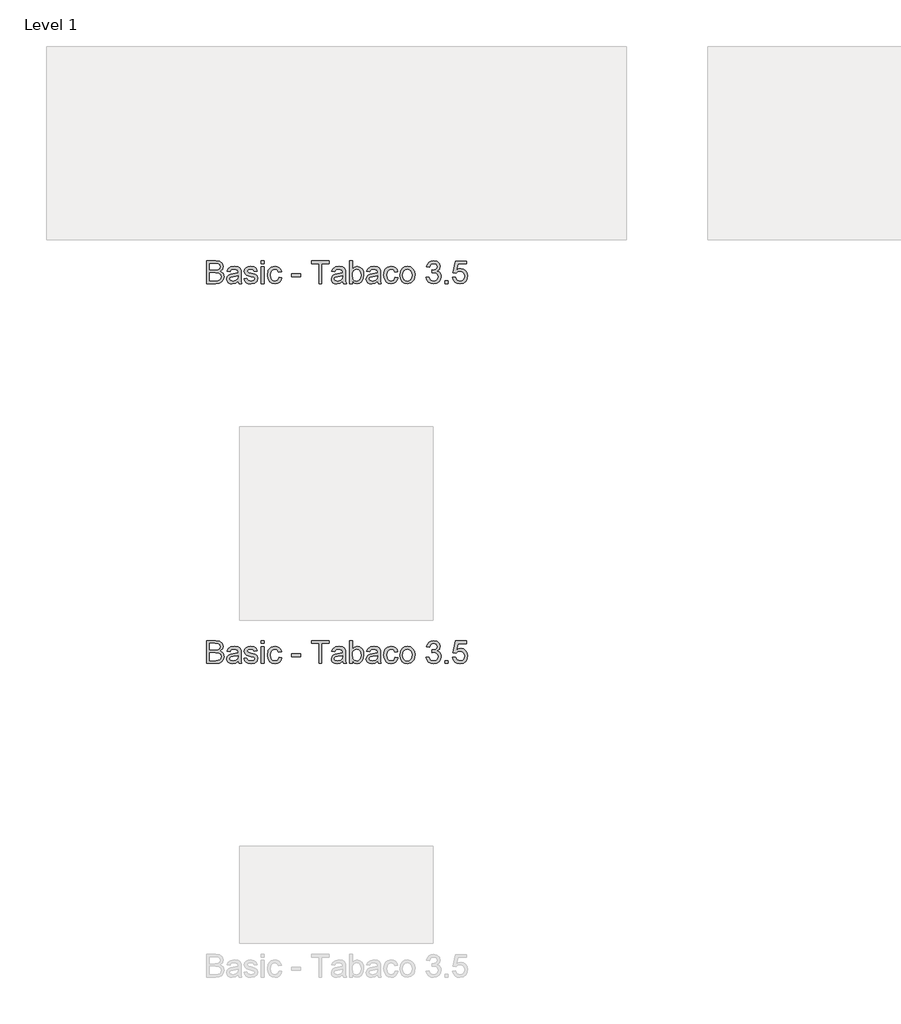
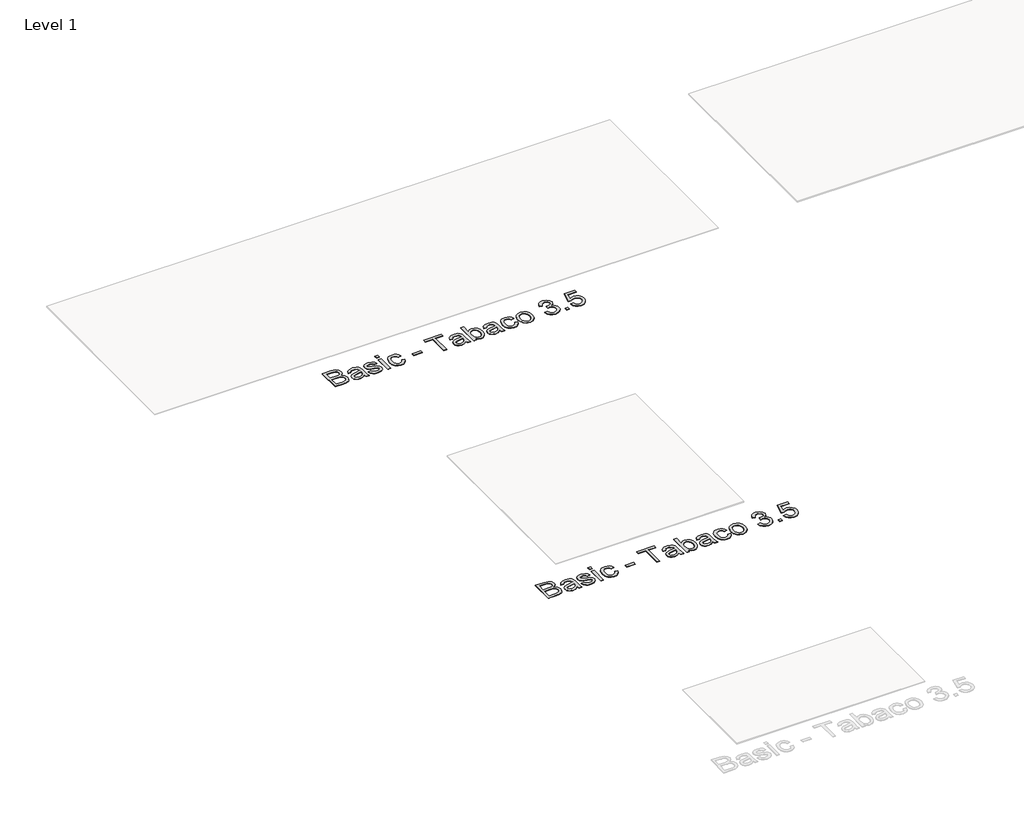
# One storey, part 61 of 80: 2 proxies.
"""IFC4 building model written with IfcOpenShell, lengths in millimetres."""

from ifc_helpers import new_model, si_unit, origin, origin_with_axes, place, context, project, spatial, polyline, outline, extrude, element, save

model = new_model("IFC4")

# Units and contexts
model_context = context("Model", 3, world=origin())
ifc_project = project(units=[si_unit("LENGTHUNIT", "METRE", prefix="MILLI")], contexts=[model_context])

# Site, building, storey
site = spatial("IfcSite", under=ifc_project)
building = spatial("IfcBuilding", under=site)
storey = spatial("IfcBuildingStorey", under=building, Name="Level 1", Elevation=0.0)

# Proxies
placement = place(None, origin())
element("IfcBuildingElementProxy", 1, Name="24\" Arial", ObjectType="24\" Arial", at=placement, inside=storey, context=model_context, shape_type="SweptSolid", body=[
    extrude(outline(polyline([(-3256.6145694, 19224.0250725), (-3256.6145694, 19342.1789187), (-3211.528031, 19342.1789187), (-3189.4463002, 19338.7029571), (-3176.4078387, 19328.0154571), (-3171.6914925, 19312.9000725), (-3175.6578387, 19299.0971879), (-3187.6434156, 19288.6404571), (-3173.090531, 19277.6212264), (-3167.9991848, 19259.2462264), (-3171.4751464, 19243.3664187), (-3180.0857233, 19232.0587264), (-3192.9366848, 19226.0587264), (-3211.8741848, 19224.0250725), (-3256.6145694, 19224.0250725)]), holes=[polyline([(-3241.8453387, 19238.7943033), (-3211.5568771, 19238.7943033), (-3200.5953387, 19239.3712264), (-3191.3213002, 19242.5875725), (-3185.1770694, 19249.1500725), (-3182.7684156, 19259.1019956), (-3185.5953387, 19270.5827648), (-3194.7539925, 19277.4337264), (-3212.9991848, 19279.4096879), (-3241.8453387, 19279.4096879), (-3241.8453387, 19238.7943033)]), polyline([(-3241.8453387, 19294.1789187), (-3214.8741848, 19294.1789187), (-3199.1241848, 19295.4481494), (-3189.6482233, 19300.9144956), (-3186.4607233, 19310.5346879), (-3189.4318771, 19320.1693033), (-3197.9414925, 19325.8664187), (-3216.9222617, 19327.4096879), (-3241.8453387, 19327.4096879), (-3241.8453387, 19294.1789187)])]), origin_with_axes(), (0.0, 0.0, 1.0), 2.0),
    extrude(outline(polyline([(-3094.153031, 19235.1019956), (-3108.4751464, 19225.0923802), (-3124.2972617, 19222.1789187), (-3136.6398098, 19223.9313225), (-3145.7443771, 19229.188534), (-3151.3585598, 19237.1717071), (-3153.2299541, 19247.1019956), (-3150.403031, 19258.7846879), (-3142.9751464, 19267.2654571), (-3132.6338002, 19272.111611), (-3119.8549541, 19274.3327648), (-3094.2395694, 19279.4096879), (-3094.153031, 19282.6981494), (-3098.2203387, 19293.6019956), (-3114.5472617, 19297.8712264), (-3129.4895694, 19295.0298802), (-3136.6145694, 19284.9481494), (-3151.3838002, 19286.7943033), (-3144.9943771, 19301.2173802), (-3132.1289925, 19309.6693033), (-3112.6434156, 19312.6404571), (-3094.7443771, 19310.0154571), (-3084.6338002, 19303.424111), (-3080.1049541, 19293.4000725), (-3079.3838002, 19280.4769956), (-3079.3838002, 19262.1019956), (-3078.6338002, 19236.4433417), (-3075.6914925, 19224.0250725), (-3090.4607233, 19224.0250725), (-3094.153031, 19235.1019956)]), holes=[polyline([(-3094.153031, 19264.6404571), (-3117.9799541, 19260.111611), (-3130.6866848, 19257.7173802), (-3136.4414925, 19253.8231494), (-3138.4607233, 19248.1404571), (-3134.0616848, 19240.1500725), (-3121.153031, 19236.9481494), (-3106.2107233, 19240.4818033), (-3096.5761079, 19249.0346879), (-3094.2395694, 19260.4577648), (-3094.153031, 19264.6404571)])]), origin_with_axes(), (0.0, 0.0, 1.0), 2.0),
    extrude(outline(polyline([(-3064.6145694, 19249.8712264), (-3049.8453387, 19251.7173802), (-3043.0088002, 19240.7558417), (-3027.3453387, 19236.9481494), (-3012.2876464, 19240.438534), (-3007.3838002, 19248.6308417), (-3012.3164925, 19255.2654571), (-3027.5184156, 19259.4769956), (-3049.7588002, 19266.7029571), (-3059.465531, 19275.1404571), (-3062.7684156, 19287.0539187), (-3060.1145694, 19298.0587264), (-3052.8741848, 19306.4673802), (-3043.4847617, 19310.8375725), (-3030.778031, 19312.6404571), (-3012.8068771, 19309.7414187), (-3001.3838002, 19301.8952648), (-2996.3068771, 19288.6404571), (-3011.0761079, 19286.7943033), (-3016.6289925, 19294.9433417), (-3029.6241848, 19297.8712264), (-3043.7588002, 19295.0731494), (-3047.9991848, 19288.5539187), (-3046.2395694, 19284.2558417), (-3040.7299541, 19280.9962264), (-3028.0088002, 19277.8519956), (-3006.3309156, 19270.9000725), (-2996.2636079, 19263.0250725), (-2992.6145694, 19250.188534), (-2996.8982233, 19236.0539187), (-3009.2588002, 19225.799111), (-3027.5472617, 19222.1789187), (-3042.4390887, 19223.924111), (-3053.3068771, 19229.1596879), (-3060.5616848, 19237.8279571), (-3064.6145694, 19249.8712264)])), origin_with_axes(), (0.0, 0.0, 1.0), 2.0),
    extrude(outline(polyline([(-2975.9991848, 19224.0250725), (-2975.9991848, 19310.7943033), (-2961.2299541, 19310.7943033), (-2961.2299541, 19224.0250725), (-2975.9991848, 19224.0250725)])), origin_with_axes(), (0.0, 0.0, 1.0), 2.0),
    extrude(outline(polyline([(-2975.9991848, 19327.4096879), (-2975.9991848, 19342.1789187), (-2961.2299541, 19342.1789187), (-2961.2299541, 19327.4096879), (-2975.9991848, 19327.4096879)])), origin_with_axes(), (0.0, 0.0, 1.0), 2.0),
    extrude(outline(polyline([(-2883.6914925, 19255.4096879), (-2868.9222617, 19253.563534), (-2873.0400502, 19240.4277167), (-2880.778031, 19230.501034), (-2891.4078387, 19224.2594475), (-2904.2011079, 19222.1789187), (-2919.9114444, 19225.0815629), (-2932.1963002, 19233.7894956), (-2940.1253867, 19247.9205052), (-2942.7684156, 19267.0923802), (-2938.2539925, 19291.626034), (-2932.5568771, 19300.8243514), (-2924.4943771, 19307.3904571), (-2904.403031, 19312.6404571), (-2891.9234637, 19310.8375725), (-2881.9463002, 19305.4289187), (-2874.7888483, 19296.7029571), (-2870.7684156, 19284.9481494), (-2885.5376464, 19283.1019956), (-2892.3886079, 19294.1644956), (-2904.2876464, 19297.8712264), (-2913.8321175, 19296.0467071), (-2921.4078387, 19290.5731494), (-2926.3513483, 19281.1548802), (-2927.9991848, 19267.4962264), (-2926.387406, 19253.6536783), (-2921.5520694, 19244.2029571), (-2914.1133675, 19238.7618514), (-2904.6914925, 19236.9481494), (-2890.7732233, 19241.4769956), (-2883.6914925, 19255.4096879)])), origin_with_axes(), (0.0, 0.0, 1.0), 2.0),
    extrude(outline(polyline([(-2817.2299541, 19259.1019956), (-2817.2299541, 19273.8712264), (-2771.0761079, 19273.8712264), (-2771.0761079, 19259.1019956), (-2817.2299541, 19259.1019956)])), origin_with_axes(), (0.0, 0.0, 1.0), 2.0),
    extrude(outline(polyline([(-2676.9222617, 19224.0250725), (-2676.9222617, 19327.4096879), (-2715.6914925, 19327.4096879), (-2715.6914925, 19342.1789187), (-2623.3838002, 19342.1789187), (-2623.3838002, 19327.4096879), (-2662.153031, 19327.4096879), (-2662.153031, 19224.0250725), (-2676.9222617, 19224.0250725)])), origin_with_axes(), (0.0, 0.0, 1.0), 2.0),
    extrude(outline(polyline([(-2553.2299541, 19235.1019956), (-2567.5520694, 19225.0923802), (-2583.3741848, 19222.1789187), (-2595.7167329, 19223.9313225), (-2604.8213002, 19229.188534), (-2610.4354829, 19237.1717071), (-2612.3068771, 19247.1019956), (-2609.4799541, 19258.7846879), (-2602.0520694, 19267.2654571), (-2591.7107233, 19272.111611), (-2578.9318771, 19274.3327648), (-2553.3164925, 19279.4096879), (-2553.2299541, 19282.6981494), (-2557.2972617, 19293.6019956), (-2573.6241848, 19297.8712264), (-2588.5664925, 19295.0298802), (-2595.6914925, 19284.9481494), (-2610.4607233, 19286.7943033), (-2604.0713002, 19301.2173802), (-2591.2059156, 19309.6693033), (-2571.7203387, 19312.6404571), (-2553.8213002, 19310.0154571), (-2543.7107233, 19303.424111), (-2539.1818771, 19293.4000725), (-2538.4607233, 19280.4769956), (-2538.4607233, 19262.1019956), (-2537.7107233, 19236.4433417), (-2534.7684156, 19224.0250725), (-2549.5376464, 19224.0250725), (-2553.2299541, 19235.1019956)]), holes=[polyline([(-2553.2299541, 19264.6404571), (-2577.0568771, 19260.111611), (-2589.7636079, 19257.7173802), (-2595.5184156, 19253.8231494), (-2597.5376464, 19248.1404571), (-2593.1386079, 19240.1500725), (-2580.2299541, 19236.9481494), (-2565.2876464, 19240.4818033), (-2555.653031, 19249.0346879), (-2553.3164925, 19260.4577648), (-2553.2299541, 19264.6404571)])]), origin_with_axes(), (0.0, 0.0, 1.0), 2.0),
    extrude(outline(polyline([(-2503.3838002, 19224.0250725), (-2518.153031, 19224.0250725), (-2518.153031, 19342.1789187), (-2503.3838002, 19342.1789187), (-2503.3838002, 19298.361611), (-2493.0424541, 19309.0707456), (-2480.1914925, 19312.6404571), (-2465.3934156, 19309.424111), (-2453.9126464, 19300.3808417), (-2446.8597617, 19286.3183417), (-2444.3068771, 19268.7077648), (-2446.949906, 19248.9914187), (-2454.8789925, 19234.3231494), (-2466.5148098, 19225.2149764), (-2480.278031, 19222.1789187), (-2493.4102425, 19226.094784), (-2503.3838002, 19237.8423802), (-2503.3838002, 19224.0250725)]), holes=[polyline([(-2503.3838002, 19268.0154571), (-2499.3453387, 19247.361611), (-2491.6073579, 19239.5515148), (-2481.5472617, 19236.9481494), (-2473.0232233, 19238.8664187), (-2465.7395694, 19244.6212264), (-2460.7419733, 19254.1765148), (-2459.0761079, 19267.4962264), (-2460.6734637, 19281.0106494), (-2465.465531, 19290.4577648), (-2472.5220214, 19296.017861), (-2480.9126464, 19297.8712264), (-2489.4366848, 19295.9529571), (-2496.7203387, 19290.1981494), (-2501.7179348, 19280.8159379), (-2503.3838002, 19268.0154571)])]), origin_with_axes(), (0.0, 0.0, 1.0), 2.0),
    extrude(outline(polyline([(-2372.3068771, 19235.1019956), (-2386.6289925, 19225.0923802), (-2402.4511079, 19222.1789187), (-2414.793656, 19223.9313225), (-2423.8982233, 19229.188534), (-2429.512406, 19237.1717071), (-2431.3838002, 19247.1019956), (-2428.5568771, 19258.7846879), (-2421.1289925, 19267.2654571), (-2410.7876464, 19272.111611), (-2398.0088002, 19274.3327648), (-2372.3934156, 19279.4096879), (-2372.3068771, 19282.6981494), (-2376.3741848, 19293.6019956), (-2392.7011079, 19297.8712264), (-2407.6434156, 19295.0298802), (-2414.7684156, 19284.9481494), (-2429.5376464, 19286.7943033), (-2423.1482233, 19301.2173802), (-2410.2828387, 19309.6693033), (-2390.7972617, 19312.6404571), (-2372.8982233, 19310.0154571), (-2362.7876464, 19303.424111), (-2358.2588002, 19293.4000725), (-2357.5376464, 19280.4769956), (-2357.5376464, 19262.1019956), (-2356.7876464, 19236.4433417), (-2353.8453387, 19224.0250725), (-2368.6145694, 19224.0250725), (-2372.3068771, 19235.1019956)]), holes=[polyline([(-2372.3068771, 19264.6404571), (-2396.1338002, 19260.111611), (-2408.840531, 19257.7173802), (-2414.5953387, 19253.8231494), (-2416.6145694, 19248.1404571), (-2412.215531, 19240.1500725), (-2399.3068771, 19236.9481494), (-2384.3645694, 19240.4818033), (-2374.7299541, 19249.0346879), (-2372.3934156, 19260.4577648), (-2372.3068771, 19264.6404571)])]), origin_with_axes(), (0.0, 0.0, 1.0), 2.0),
    extrude(outline(polyline([(-2281.8453387, 19255.4096879), (-2267.0761079, 19253.563534), (-2271.1938964, 19240.4277167), (-2278.9318771, 19230.501034), (-2289.5616848, 19224.2594475), (-2302.3549541, 19222.1789187), (-2318.0652906, 19225.0815629), (-2330.3501464, 19233.7894956), (-2338.2792329, 19247.9205052), (-2340.9222617, 19267.0923802), (-2336.4078387, 19291.626034), (-2330.7107233, 19300.8243514), (-2322.6482233, 19307.3904571), (-2302.5568771, 19312.6404571), (-2290.0773098, 19310.8375725), (-2280.1001464, 19305.4289187), (-2272.9426944, 19296.7029571), (-2268.9222617, 19284.9481494), (-2283.6914925, 19283.1019956), (-2290.5424541, 19294.1644956), (-2302.4414925, 19297.8712264), (-2311.9859637, 19296.0467071), (-2319.5616848, 19290.5731494), (-2324.5051944, 19281.1548802), (-2326.153031, 19267.4962264), (-2324.5412521, 19253.6536783), (-2319.7059156, 19244.2029571), (-2312.2672137, 19238.7618514), (-2302.8453387, 19236.9481494), (-2288.9270694, 19241.4769956), (-2281.8453387, 19255.4096879)])), origin_with_axes(), (0.0, 0.0, 1.0), 2.0),
    extrude(outline(polyline([(-2257.8453387, 19267.4096879), (-2254.6506271, 19288.330361), (-2245.0664925, 19303.0346879), (-2233.2251464, 19310.2390148), (-2219.0472617, 19312.6404571), (-2203.5316367, 19309.7161783), (-2191.1386079, 19300.9433417), (-2183.0148098, 19287.0142552), (-2180.3068771, 19268.6212264), (-2185.0953387, 19242.3423802), (-2199.0424541, 19227.4721879), (-2219.0472617, 19222.1789187), (-2234.7503867, 19225.0923802), (-2247.1289925, 19233.8327648), (-2255.1662521, 19248.0539187), (-2257.8453387, 19267.4096879)]), holes=[polyline([(-2243.0761079, 19267.438534), (-2241.3669733, 19254.0719475), (-2236.2395694, 19244.549111), (-2228.5232233, 19238.8483898), (-2219.0472617, 19236.9481494), (-2209.6145694, 19238.8592071), (-2201.9126464, 19244.5923802), (-2196.7852425, 19254.2414187), (-2195.0761079, 19267.9000725), (-2196.7960598, 19280.877236), (-2201.9559156, 19290.2702648), (-2209.668656, 19295.970986), (-2219.0472617, 19297.8712264), (-2228.5232233, 19295.9781975), (-2236.2395694, 19290.299111), (-2241.3669733, 19280.797909), (-2243.0761079, 19267.438534)])]), origin_with_axes(), (0.0, 0.0, 1.0), 2.0),
    extrude(outline(polyline([(-2121.2299541, 19255.4096879), (-2106.4607233, 19257.2558417), (-2098.3116848, 19241.7077648), (-2083.0664925, 19236.9481494), (-2072.9414925, 19238.5851687), (-2065.1241848, 19243.4962264), (-2060.1265887, 19250.8231494), (-2058.4607233, 19259.7077648), (-2060.1121656, 19268.141659), (-2065.0664925, 19274.9818033), (-2072.5664925, 19279.5142552), (-2081.8549541, 19281.0250725), (-2092.2107233, 19279.4096879), (-2090.5664925, 19294.1789187), (-2088.2011079, 19294.0058417), (-2071.4414925, 19298.2462264), (-2065.8597617, 19303.626034), (-2063.9991848, 19311.2846879), (-2069.3934156, 19322.8375725), (-2083.2972617, 19327.4096879), (-2097.3741848, 19322.7943033), (-2104.6145694, 19308.9481494), (-2119.3838002, 19310.7943033), (-2115.0352425, 19324.0563225), (-2107.2972617, 19333.9577648), (-2096.7107233, 19340.1236302), (-2083.8164925, 19342.1789187), (-2066.0039925, 19338.126034), (-2053.5424541, 19327.049111), (-2049.2299541, 19312.1500725), (-2053.3261079, 19298.5346879), (-2065.4414925, 19288.7558417), (-2056.1963002, 19285.0202648), (-2049.3453387, 19278.6596879), (-2045.1049541, 19270.0202648), (-2043.6914925, 19259.4481494), (-2046.5184156, 19245.0539187), (-2054.9991848, 19233.0250725), (-2067.7996656, 19224.8904571), (-2083.5857233, 19222.1789187), (-2097.8645694, 19224.4938225), (-2109.4895694, 19231.438534), (-2117.5737041, 19242.0611302), (-2121.2299541, 19255.4096879)])), origin_with_axes(), (0.0, 0.0, 1.0), 2.0),
    extrude(outline(polyline([(-2023.3838002, 19224.0250725), (-2023.3838002, 19238.7943033), (-2008.6145694, 19238.7943033), (-2008.6145694, 19224.0250725), (-2023.3838002, 19224.0250725)])), origin_with_axes(), (0.0, 0.0, 1.0), 2.0),
    extrude(outline(polyline([(-1984.6145694, 19255.4096879), (-1969.8453387, 19257.2558417), (-1962.403031, 19242.0394956), (-1946.9703387, 19236.9481494), (-1936.3838002, 19238.7185821), (-1928.4511079, 19244.0298802), (-1923.496781, 19252.2690629), (-1921.8453387, 19262.8231494), (-1923.3922137, 19272.7606494), (-1928.0328387, 19280.361611), (-1935.8032714, 19285.1861302), (-1946.7395694, 19286.7943033), (-1959.7059156, 19284.2269956), (-1967.9991848, 19277.563534), (-1982.7684156, 19279.4096879), (-1969.8453387, 19340.3327648), (-1912.6145694, 19340.3327648), (-1912.6145694, 19325.563534), (-1957.903031, 19325.563534), (-1964.2203387, 19293.0250725), (-1953.6698579, 19299.4289187), (-1942.6145694, 19301.563534), (-1928.8152906, 19298.9168994), (-1917.3597617, 19290.9769956), (-1909.6470214, 19278.876034), (-1907.0761079, 19263.7462264), (-1909.3910117, 19248.9769956), (-1916.3357233, 19236.3423802), (-1929.6338002, 19225.719784), (-1947.028031, 19222.1789187), (-1961.5340406, 19224.454159), (-1973.090531, 19231.2798802), (-1981.012406, 19241.8628129), (-1984.6145694, 19255.4096879)])), origin_with_axes(), (0.0, 0.0, 1.0), 2.0),
])
element("IfcBuildingElementProxy", 2, Name="24\" Arial", ObjectType="24\" Arial", at=placement, inside=storey, context=model_context, shape_type="SweptSolid", body=[
    extrude(outline(polyline([(-3256.6145694, 17259.8026123), (-3256.6145694, 17377.9564584), (-3211.528031, 17377.9564584), (-3189.4463002, 17374.4804969), (-3176.4078387, 17363.7929969), (-3171.6914925, 17348.6776123), (-3175.6578387, 17334.8747276), (-3187.6434156, 17324.4179969), (-3173.090531, 17313.3987661), (-3167.9991848, 17295.0237661), (-3171.4751464, 17279.1439584), (-3180.0857233, 17267.8362661), (-3192.9366848, 17261.8362661), (-3211.8741848, 17259.8026123), (-3256.6145694, 17259.8026123)]), holes=[polyline([(-3241.8453387, 17274.571843), (-3211.5568771, 17274.571843), (-3200.5953387, 17275.1487661), (-3191.3213002, 17278.3651123), (-3185.1770694, 17284.9276123), (-3182.7684156, 17294.8795353), (-3185.5953387, 17306.3603046), (-3194.7539925, 17313.2112661), (-3212.9991848, 17315.1872276), (-3241.8453387, 17315.1872276), (-3241.8453387, 17274.571843)]), polyline([(-3241.8453387, 17329.9564584), (-3214.8741848, 17329.9564584), (-3199.1241848, 17331.2256892), (-3189.6482233, 17336.6920353), (-3186.4607233, 17346.3122276), (-3189.4318771, 17355.946843), (-3197.9414925, 17361.6439584), (-3216.9222617, 17363.1872276), (-3241.8453387, 17363.1872276), (-3241.8453387, 17329.9564584)])]), origin_with_axes(), (0.0, 0.0, 1.0), 2.0),
    extrude(outline(polyline([(-3094.153031, 17270.8795353), (-3108.4751464, 17260.8699199), (-3124.2972617, 17257.9564584), (-3136.6398098, 17259.7088623), (-3145.7443771, 17264.9660738), (-3151.3585598, 17272.9492469), (-3153.2299541, 17282.8795353), (-3150.403031, 17294.5622276), (-3142.9751464, 17303.0429969), (-3132.6338002, 17307.8891507), (-3119.8549541, 17310.1103046), (-3094.2395694, 17315.1872276), (-3094.153031, 17318.4756892), (-3098.2203387, 17329.3795353), (-3114.5472617, 17333.6487661), (-3129.4895694, 17330.8074199), (-3136.6145694, 17320.7256892), (-3151.3838002, 17322.571843), (-3144.9943771, 17336.9949199), (-3132.1289925, 17345.446843), (-3112.6434156, 17348.4179969), (-3094.7443771, 17345.7929969), (-3084.6338002, 17339.2016507), (-3080.1049541, 17329.1776123), (-3079.3838002, 17316.2545353), (-3079.3838002, 17297.8795353), (-3078.6338002, 17272.2208815), (-3075.6914925, 17259.8026123), (-3090.4607233, 17259.8026123), (-3094.153031, 17270.8795353)]), holes=[polyline([(-3094.153031, 17300.4179969), (-3117.9799541, 17295.8891507), (-3130.6866848, 17293.4949199), (-3136.4414925, 17289.6006892), (-3138.4607233, 17283.9179969), (-3134.0616848, 17275.9276123), (-3121.153031, 17272.7256892), (-3106.2107233, 17276.259343), (-3096.5761079, 17284.8122276), (-3094.2395694, 17296.2353046), (-3094.153031, 17300.4179969)])]), origin_with_axes(), (0.0, 0.0, 1.0), 2.0),
    extrude(outline(polyline([(-3064.6145694, 17285.6487661), (-3049.8453387, 17287.4949199), (-3043.0088002, 17276.5333815), (-3027.3453387, 17272.7256892), (-3012.2876464, 17276.2160738), (-3007.3838002, 17284.4083815), (-3012.3164925, 17291.0429969), (-3027.5184156, 17295.2545353), (-3049.7588002, 17302.4804969), (-3059.465531, 17310.9179969), (-3062.7684156, 17322.8314584), (-3060.1145694, 17333.8362661), (-3052.8741848, 17342.2449199), (-3043.4847617, 17346.6151123), (-3030.778031, 17348.4179969), (-3012.8068771, 17345.5189584), (-3001.3838002, 17337.6728046), (-2996.3068771, 17324.4179969), (-3011.0761079, 17322.571843), (-3016.6289925, 17330.7208815), (-3029.6241848, 17333.6487661), (-3043.7588002, 17330.8506892), (-3047.9991848, 17324.3314584), (-3046.2395694, 17320.0333815), (-3040.7299541, 17316.7737661), (-3028.0088002, 17313.6295353), (-3006.3309156, 17306.6776123), (-2996.2636079, 17298.8026123), (-2992.6145694, 17285.9660738), (-2996.8982233, 17271.8314584), (-3009.2588002, 17261.5766507), (-3027.5472617, 17257.9564584), (-3042.4390887, 17259.7016507), (-3053.3068771, 17264.9372276), (-3060.5616848, 17273.6054969), (-3064.6145694, 17285.6487661)])), origin_with_axes(), (0.0, 0.0, 1.0), 2.0),
    extrude(outline(polyline([(-2975.9991848, 17259.8026123), (-2975.9991848, 17346.571843), (-2961.2299541, 17346.571843), (-2961.2299541, 17259.8026123), (-2975.9991848, 17259.8026123)])), origin_with_axes(), (0.0, 0.0, 1.0), 2.0),
    extrude(outline(polyline([(-2975.9991848, 17363.1872276), (-2975.9991848, 17377.9564584), (-2961.2299541, 17377.9564584), (-2961.2299541, 17363.1872276), (-2975.9991848, 17363.1872276)])), origin_with_axes(), (0.0, 0.0, 1.0), 2.0),
    extrude(outline(polyline([(-2883.6914925, 17291.1872276), (-2868.9222617, 17289.3410738), (-2873.0400502, 17276.2052565), (-2880.778031, 17266.2785738), (-2891.4078387, 17260.0369873), (-2904.2011079, 17257.9564584), (-2919.9114444, 17260.8591026), (-2932.1963002, 17269.5670353), (-2940.1253867, 17283.6980449), (-2942.7684156, 17302.8699199), (-2938.2539925, 17327.4035738), (-2932.5568771, 17336.6018911), (-2924.4943771, 17343.1679969), (-2904.403031, 17348.4179969), (-2891.9234637, 17346.6151123), (-2881.9463002, 17341.2064584), (-2874.7888483, 17332.4804969), (-2870.7684156, 17320.7256892), (-2885.5376464, 17318.8795353), (-2892.3886079, 17329.9420353), (-2904.2876464, 17333.6487661), (-2913.8321175, 17331.8242469), (-2921.4078387, 17326.3506892), (-2926.3513483, 17316.9324199), (-2927.9991848, 17303.2737661), (-2926.387406, 17289.431218), (-2921.5520694, 17279.9804969), (-2914.1133675, 17274.5393911), (-2904.6914925, 17272.7256892), (-2890.7732233, 17277.2545353), (-2883.6914925, 17291.1872276)])), origin_with_axes(), (0.0, 0.0, 1.0), 2.0),
    extrude(outline(polyline([(-2817.2299541, 17294.8795353), (-2817.2299541, 17309.6487661), (-2771.0761079, 17309.6487661), (-2771.0761079, 17294.8795353), (-2817.2299541, 17294.8795353)])), origin_with_axes(), (0.0, 0.0, 1.0), 2.0),
    extrude(outline(polyline([(-2676.9222617, 17259.8026123), (-2676.9222617, 17363.1872276), (-2715.6914925, 17363.1872276), (-2715.6914925, 17377.9564584), (-2623.3838002, 17377.9564584), (-2623.3838002, 17363.1872276), (-2662.153031, 17363.1872276), (-2662.153031, 17259.8026123), (-2676.9222617, 17259.8026123)])), origin_with_axes(), (0.0, 0.0, 1.0), 2.0),
    extrude(outline(polyline([(-2553.2299541, 17270.8795353), (-2567.5520694, 17260.8699199), (-2583.3741848, 17257.9564584), (-2595.7167329, 17259.7088623), (-2604.8213002, 17264.9660738), (-2610.4354829, 17272.9492469), (-2612.3068771, 17282.8795353), (-2609.4799541, 17294.5622276), (-2602.0520694, 17303.0429969), (-2591.7107233, 17307.8891507), (-2578.9318771, 17310.1103046), (-2553.3164925, 17315.1872276), (-2553.2299541, 17318.4756892), (-2557.2972617, 17329.3795353), (-2573.6241848, 17333.6487661), (-2588.5664925, 17330.8074199), (-2595.6914925, 17320.7256892), (-2610.4607233, 17322.571843), (-2604.0713002, 17336.9949199), (-2591.2059156, 17345.446843), (-2571.7203387, 17348.4179969), (-2553.8213002, 17345.7929969), (-2543.7107233, 17339.2016507), (-2539.1818771, 17329.1776123), (-2538.4607233, 17316.2545353), (-2538.4607233, 17297.8795353), (-2537.7107233, 17272.2208815), (-2534.7684156, 17259.8026123), (-2549.5376464, 17259.8026123), (-2553.2299541, 17270.8795353)]), holes=[polyline([(-2553.2299541, 17300.4179969), (-2577.0568771, 17295.8891507), (-2589.7636079, 17293.4949199), (-2595.5184156, 17289.6006892), (-2597.5376464, 17283.9179969), (-2593.1386079, 17275.9276123), (-2580.2299541, 17272.7256892), (-2565.2876464, 17276.259343), (-2555.653031, 17284.8122276), (-2553.3164925, 17296.2353046), (-2553.2299541, 17300.4179969)])]), origin_with_axes(), (0.0, 0.0, 1.0), 2.0),
    extrude(outline(polyline([(-2503.3838002, 17259.8026123), (-2518.153031, 17259.8026123), (-2518.153031, 17377.9564584), (-2503.3838002, 17377.9564584), (-2503.3838002, 17334.1391507), (-2493.0424541, 17344.8482853), (-2480.1914925, 17348.4179969), (-2465.3934156, 17345.2016507), (-2453.9126464, 17336.1583815), (-2446.8597617, 17322.0958815), (-2444.3068771, 17304.4853046), (-2446.949906, 17284.7689584), (-2454.8789925, 17270.1006892), (-2466.5148098, 17260.9925161), (-2480.278031, 17257.9564584), (-2493.4102425, 17261.8723238), (-2503.3838002, 17273.6199199), (-2503.3838002, 17259.8026123)]), holes=[polyline([(-2503.3838002, 17303.7929969), (-2499.3453387, 17283.1391507), (-2491.6073579, 17275.3290546), (-2481.5472617, 17272.7256892), (-2473.0232233, 17274.6439584), (-2465.7395694, 17280.3987661), (-2460.7419733, 17289.9540546), (-2459.0761079, 17303.2737661), (-2460.6734637, 17316.7881892), (-2465.465531, 17326.2353046), (-2472.5220214, 17331.7954007), (-2480.9126464, 17333.6487661), (-2489.4366848, 17331.7304969), (-2496.7203387, 17325.9756892), (-2501.7179348, 17316.5934776), (-2503.3838002, 17303.7929969)])]), origin_with_axes(), (0.0, 0.0, 1.0), 2.0),
    extrude(outline(polyline([(-2372.3068771, 17270.8795353), (-2386.6289925, 17260.8699199), (-2402.4511079, 17257.9564584), (-2414.793656, 17259.7088623), (-2423.8982233, 17264.9660738), (-2429.512406, 17272.9492469), (-2431.3838002, 17282.8795353), (-2428.5568771, 17294.5622276), (-2421.1289925, 17303.0429969), (-2410.7876464, 17307.8891507), (-2398.0088002, 17310.1103046), (-2372.3934156, 17315.1872276), (-2372.3068771, 17318.4756892), (-2376.3741848, 17329.3795353), (-2392.7011079, 17333.6487661), (-2407.6434156, 17330.8074199), (-2414.7684156, 17320.7256892), (-2429.5376464, 17322.571843), (-2423.1482233, 17336.9949199), (-2410.2828387, 17345.446843), (-2390.7972617, 17348.4179969), (-2372.8982233, 17345.7929969), (-2362.7876464, 17339.2016507), (-2358.2588002, 17329.1776123), (-2357.5376464, 17316.2545353), (-2357.5376464, 17297.8795353), (-2356.7876464, 17272.2208815), (-2353.8453387, 17259.8026123), (-2368.6145694, 17259.8026123), (-2372.3068771, 17270.8795353)]), holes=[polyline([(-2372.3068771, 17300.4179969), (-2396.1338002, 17295.8891507), (-2408.840531, 17293.4949199), (-2414.5953387, 17289.6006892), (-2416.6145694, 17283.9179969), (-2412.215531, 17275.9276123), (-2399.3068771, 17272.7256892), (-2384.3645694, 17276.259343), (-2374.7299541, 17284.8122276), (-2372.3934156, 17296.2353046), (-2372.3068771, 17300.4179969)])]), origin_with_axes(), (0.0, 0.0, 1.0), 2.0),
    extrude(outline(polyline([(-2281.8453387, 17291.1872276), (-2267.0761079, 17289.3410738), (-2271.1938964, 17276.2052565), (-2278.9318771, 17266.2785738), (-2289.5616848, 17260.0369873), (-2302.3549541, 17257.9564584), (-2318.0652906, 17260.8591026), (-2330.3501464, 17269.5670353), (-2338.2792329, 17283.6980449), (-2340.9222617, 17302.8699199), (-2336.4078387, 17327.4035738), (-2330.7107233, 17336.6018911), (-2322.6482233, 17343.1679969), (-2302.5568771, 17348.4179969), (-2290.0773098, 17346.6151123), (-2280.1001464, 17341.2064584), (-2272.9426944, 17332.4804969), (-2268.9222617, 17320.7256892), (-2283.6914925, 17318.8795353), (-2290.5424541, 17329.9420353), (-2302.4414925, 17333.6487661), (-2311.9859637, 17331.8242469), (-2319.5616848, 17326.3506892), (-2324.5051944, 17316.9324199), (-2326.153031, 17303.2737661), (-2324.5412521, 17289.431218), (-2319.7059156, 17279.9804969), (-2312.2672137, 17274.5393911), (-2302.8453387, 17272.7256892), (-2288.9270694, 17277.2545353), (-2281.8453387, 17291.1872276)])), origin_with_axes(), (0.0, 0.0, 1.0), 2.0),
    extrude(outline(polyline([(-2257.8453387, 17303.1872276), (-2254.6506271, 17324.1079007), (-2245.0664925, 17338.8122276), (-2233.2251464, 17346.0165546), (-2219.0472617, 17348.4179969), (-2203.5316367, 17345.493718), (-2191.1386079, 17336.7208815), (-2183.0148098, 17322.7917949), (-2180.3068771, 17304.3987661), (-2185.0953387, 17278.1199199), (-2199.0424541, 17263.2497276), (-2219.0472617, 17257.9564584), (-2234.7503867, 17260.8699199), (-2247.1289925, 17269.6103046), (-2255.1662521, 17283.8314584), (-2257.8453387, 17303.1872276)]), holes=[polyline([(-2243.0761079, 17303.2160738), (-2241.3669733, 17289.8494873), (-2236.2395694, 17280.3266507), (-2228.5232233, 17274.6259296), (-2219.0472617, 17272.7256892), (-2209.6145694, 17274.6367469), (-2201.9126464, 17280.3699199), (-2196.7852425, 17290.0189584), (-2195.0761079, 17303.6776123), (-2196.7960598, 17316.6547757), (-2201.9559156, 17326.0478046), (-2209.668656, 17331.7485257), (-2219.0472617, 17333.6487661), (-2228.5232233, 17331.7557373), (-2236.2395694, 17326.0766507), (-2241.3669733, 17316.5754488), (-2243.0761079, 17303.2160738)])]), origin_with_axes(), (0.0, 0.0, 1.0), 2.0),
    extrude(outline(polyline([(-2121.2299541, 17291.1872276), (-2106.4607233, 17293.0333815), (-2098.3116848, 17277.4853046), (-2083.0664925, 17272.7256892), (-2072.9414925, 17274.3627084), (-2065.1241848, 17279.2737661), (-2060.1265887, 17286.6006892), (-2058.4607233, 17295.4853046), (-2060.1121656, 17303.9191988), (-2065.0664925, 17310.759343), (-2072.5664925, 17315.2917949), (-2081.8549541, 17316.8026123), (-2092.2107233, 17315.1872276), (-2090.5664925, 17329.9564584), (-2088.2011079, 17329.7833815), (-2071.4414925, 17334.0237661), (-2065.8597617, 17339.4035738), (-2063.9991848, 17347.0622276), (-2069.3934156, 17358.6151123), (-2083.2972617, 17363.1872276), (-2097.3741848, 17358.571843), (-2104.6145694, 17344.7256892), (-2119.3838002, 17346.571843), (-2115.0352425, 17359.8338623), (-2107.2972617, 17369.7353046), (-2096.7107233, 17375.9011699), (-2083.8164925, 17377.9564584), (-2066.0039925, 17373.9035738), (-2053.5424541, 17362.8266507), (-2049.2299541, 17347.9276123), (-2053.3261079, 17334.3122276), (-2065.4414925, 17324.5333815), (-2056.1963002, 17320.7978046), (-2049.3453387, 17314.4372276), (-2045.1049541, 17305.7978046), (-2043.6914925, 17295.2256892), (-2046.5184156, 17280.8314584), (-2054.9991848, 17268.8026123), (-2067.7996656, 17260.6679969), (-2083.5857233, 17257.9564584), (-2097.8645694, 17260.2713623), (-2109.4895694, 17267.2160738), (-2117.5737041, 17277.8386699), (-2121.2299541, 17291.1872276)])), origin_with_axes(), (0.0, 0.0, 1.0), 2.0),
    extrude(outline(polyline([(-2023.3838002, 17259.8026123), (-2023.3838002, 17274.571843), (-2008.6145694, 17274.571843), (-2008.6145694, 17259.8026123), (-2023.3838002, 17259.8026123)])), origin_with_axes(), (0.0, 0.0, 1.0), 2.0),
    extrude(outline(polyline([(-1984.6145694, 17291.1872276), (-1969.8453387, 17293.0333815), (-1962.403031, 17277.8170353), (-1946.9703387, 17272.7256892), (-1936.3838002, 17274.4961219), (-1928.4511079, 17279.8074199), (-1923.496781, 17288.0466026), (-1921.8453387, 17298.6006892), (-1923.3922137, 17308.5381892), (-1928.0328387, 17316.1391507), (-1935.8032714, 17320.9636699), (-1946.7395694, 17322.571843), (-1959.7059156, 17320.0045353), (-1967.9991848, 17313.3410738), (-1982.7684156, 17315.1872276), (-1969.8453387, 17376.1103046), (-1912.6145694, 17376.1103046), (-1912.6145694, 17361.3410738), (-1957.903031, 17361.3410738), (-1964.2203387, 17328.8026123), (-1953.6698579, 17335.2064584), (-1942.6145694, 17337.3410738), (-1928.8152906, 17334.6944392), (-1917.3597617, 17326.7545353), (-1909.6470214, 17314.6535738), (-1907.0761079, 17299.5237661), (-1909.3910117, 17284.7545353), (-1916.3357233, 17272.1199199), (-1929.6338002, 17261.4973238), (-1947.028031, 17257.9564584), (-1961.5340406, 17260.2316988), (-1973.090531, 17267.0574199), (-1981.012406, 17277.6403526), (-1984.6145694, 17291.1872276)])), origin_with_axes(), (0.0, 0.0, 1.0), 2.0),
])

save(model, "model.ifc")
